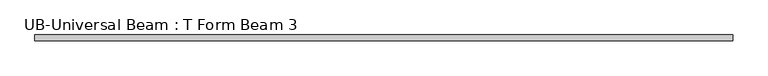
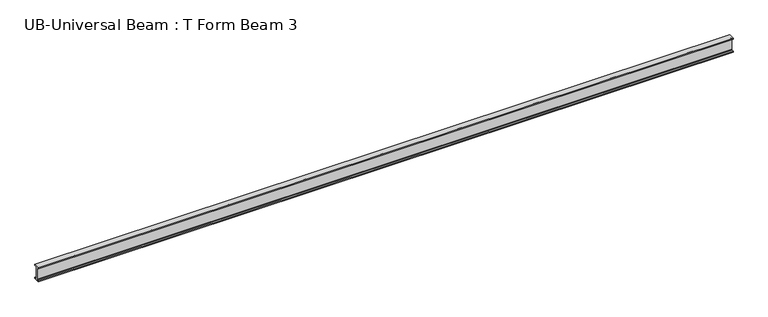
"""IFC4 building model written with IfcOpenShell, lengths in millimetres: beam geometry, UB-Universal Beam : T Form Beam 3."""

from ifc_helpers import new_model, si_unit, point, frame, frame_2d, origin, place, context, project, spatial, polyline, circle_curve, trimmed, segment, composite_curve, outline, extrude, source, transform, mapped, element, save


def ub_universal_beam_t_form_beam_3_ff705442(model_context):
    return source(origin(), model_context, "Body", "SweptSolid", [
        extrude(outline(composite_curve([segment(polyline([(152.4, -330.2), (152.4, -381.0), (-152.4, -381.0), (-152.4, -330.2), (-63.5, -330.2)]), True, "CONTINUOUS"), segment(trimmed(circle_curve(frame_2d((-63.5, -304.8)), 25.4), [point((-63.5, -330.2))], [point((-38.1, -304.8))], True, "CARTESIAN"), True, "CONTINUOUS"), segment(polyline([(-38.1, -304.8), (-38.1, 304.8)]), True, "CONTINUOUS"), segment(trimmed(circle_curve(frame_2d((-63.5, 304.8)), 25.4), [point((-38.1, 304.8))], [point((-63.5, 330.2))], True, "CARTESIAN"), True, "CONTINUOUS"), segment(polyline([(-63.5, 330.2), (-152.4, 330.2), (-152.4, 381.0), (152.4, 381.0), (152.4, 330.2), (63.5, 330.2)]), True, "CONTINUOUS"), segment(trimmed(circle_curve(frame_2d((63.5, 304.8)), 25.4), [point((63.5, 330.2))], [point((38.1, 304.8))], True, "CARTESIAN"), True, "CONTINUOUS"), segment(polyline([(38.1, 304.8), (38.1, -304.8)]), True, "CONTINUOUS"), segment(trimmed(circle_curve(frame_2d((63.5, -304.8)), 25.4), [point((38.1, -304.8))], [point((63.5, -330.2))], True, "CARTESIAN"), True, "CONTINUOUS"), segment(polyline([(63.5, -330.2), (152.4, -330.2)]), True, "CONTINUOUS")], self_intersect=False)), frame((-18678.0964447, 0.0, 0.0), z_axis=(1.0, 0.0, 0.0), x_axis=(0.0, 1.0, 0.0)), (0.0, 0.0, 1.0), 36197.8661514),
    ])


if __name__ == "__main__":
    model = new_model("IFC4")
    model_context = context("Model", 3, world=origin())
    ifc_project = project(units=[si_unit("LENGTHUNIT", "METRE", prefix="MILLI")], contexts=[model_context])
    site = spatial("IfcSite", under=ifc_project)
    building = spatial("IfcBuilding", under=site)
    placement = place(None, origin())
    ub_universal_beam_t_form_beam_3_shape = ub_universal_beam_t_form_beam_3_ff705442(model_context)
    element("IfcBeam", 1, ObjectType="UB-Universal Beam : T Form Beam 3", at=placement, inside=building, context=model_context, shape_type="MappedRepresentation", body=[
        mapped(ub_universal_beam_t_form_beam_3_shape, transform((0.0, 0.0, 0.0), x_axis=(1.0, 0.0, 0.0), y_axis=(0.0, 1.0, 0.0), z_axis=(0.0, 0.0, 1.0))),
    ])
    save(model, "model.ifc")
